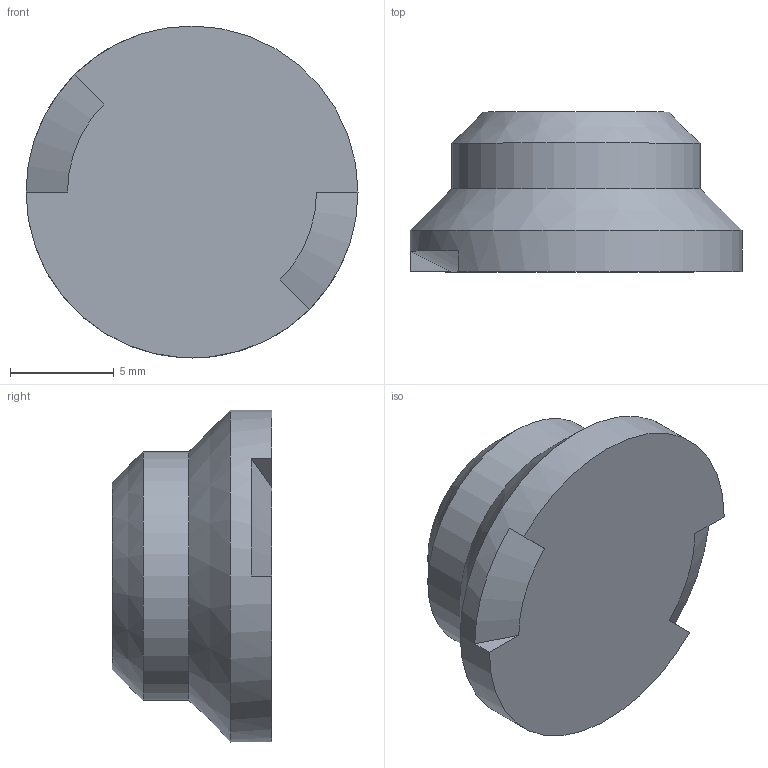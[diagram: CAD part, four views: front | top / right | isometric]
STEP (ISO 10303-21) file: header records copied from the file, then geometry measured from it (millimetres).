
FILE_DESCRIPTION(/* description */ ('CAx-IF Rec.Pracs.---Representation and Presentation of Product Manufacturing Information (PMI)---4.0---2014-10-13','CAx-IF Rec.Pracs.---3D Tessellated Geometry---0.4---2014-09-14','2;1'),/* implementation_level */ '2;1');
FILE_NAME(/* name */ 'qc1_p35_magnet_mount',/* time_stamp */ '2026-07-26T02:20:57+03:00',/* author */ (''),/* organization */ (''),/* preprocessor_version */ 'ST-DEVELOPER v19.4',/* originating_system */ 'SIEMENS PLM Software NX2306.1700',/* authorisation */ $);
FILE_SCHEMA (('AP242_MANAGED_MODEL_BASED_3D_ENGINEERING_MIM_LF { 1 0 10303 442 3 1 4 }'));
Length unit declared in the file: millimetre
Products named in the file (1): qc1_p35_magnet_mount
Bounding box: 16 x 7.7 x 16 mm (x, y, z)
Volume: 1033.5 mm3; surface area: 668 mm2
Topology: 1 solids, 1 shells, 15 faces, 35 edges, 23 vertices
Faces by surface type: plane 7, cone 4, cylinder 3, sphere 1
Full cylindrical faces by diameter (mm): 6.01 x1, 12 x1, 16 x1
Entity records: 390 total; most frequent: DIRECTION 70, CARTESIAN_POINT 60, ORIENTED_EDGE 50, AXIS2_PLACEMENT_3D 29, EDGE_CURVE 25, EDGE_LOOP 22, FACE_BOUND 22, VERTEX_POINT 19
